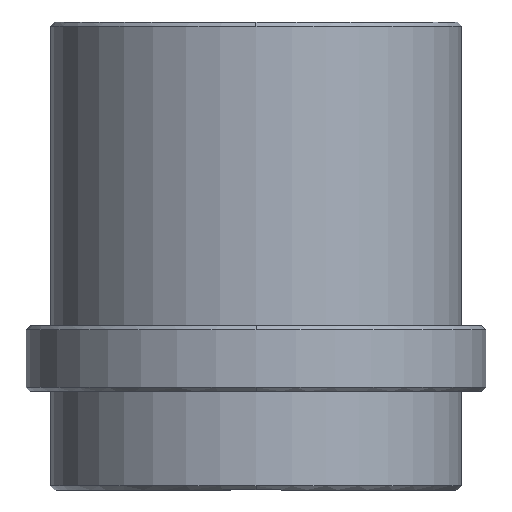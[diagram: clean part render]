
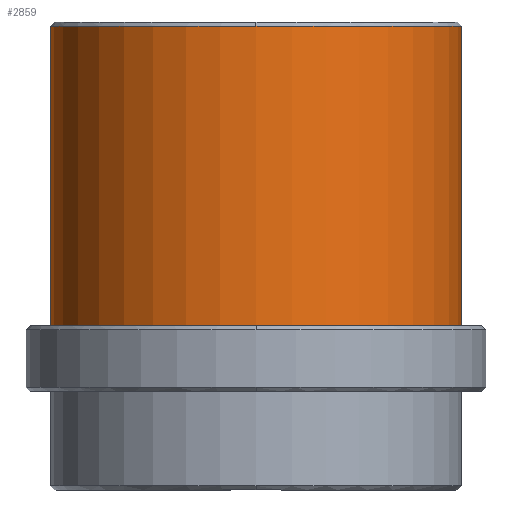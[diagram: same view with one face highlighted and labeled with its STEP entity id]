
A CAD part, front view. The second image highlights one B-rep face of the part: STEP entity #2859.
In plain terms, the highlighted cylindrical face has radius 25 mm (diameter 50 mm), a partial arc.
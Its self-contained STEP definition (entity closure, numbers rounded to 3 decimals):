
#2656=CARTESIAN_POINT('Vertex',(25.,0.,44.5)) ;
#2680=CARTESIAN_POINT('Vertex',(-25.,0.,44.5)) ;
#2704=CARTESIAN_POINT('Vertex',(0.,-25.,44.5)) ;
#2707=CARTESIAN_POINT('Axis2P3D Location',(0.,0.,44.5)) ;
#2724=CARTESIAN_POINT('Axis2P3D Location',(0.,0.,44.5)) ;
#2803=CARTESIAN_POINT('Line Origine',(25.,0.,-14.85)) ;
#2807=CARTESIAN_POINT('Vertex',(25.,0.,8.)) ;
#2826=CARTESIAN_POINT('Vertex',(-25.,0.,8.)) ;
#2829=CARTESIAN_POINT('Line Origine',(-25.,0.,-14.85)) ;
#2842=CARTESIAN_POINT('Axis2P3D Location',(0.,0.,-14.85)) ;
#2847=CARTESIAN_POINT('Axis2P3D Location',(0.,0.,8.)) ;
#2708=DIRECTION('Axis2P3D Direction',(0.,0.,-1.)) ;
#2725=DIRECTION('Axis2P3D Direction',(0.,0.,-1.)) ;
#2804=DIRECTION('Vector Direction',(0.,0.,1.)) ;
#2830=DIRECTION('Vector Direction',(0.,0.,1.)) ;
#2843=DIRECTION('Axis2P3D Direction',(0.,0.,1.)) ;
#2844=DIRECTION('Axis2P3D XDirection',(-1.,0.,0.)) ;
#2848=DIRECTION('Axis2P3D Direction',(0.,0.,1.)) ;
#2709=AXIS2_PLACEMENT_3D('Circle Axis2P3D',#2707,#2708,$) ;
#2726=AXIS2_PLACEMENT_3D('Circle Axis2P3D',#2724,#2725,$) ;
#2845=AXIS2_PLACEMENT_3D('Cylinder Axis2P3D',#2842,#2843,#2844) ;
#2849=AXIS2_PLACEMENT_3D('Circle Axis2P3D',#2847,#2848,$) ;
#2853=ORIENTED_EDGE('',*,*,#2833,.T.) ;
#2854=ORIENTED_EDGE('',*,*,#2851,.F.) ;
#2855=ORIENTED_EDGE('',*,*,#2809,.F.) ;
#2856=ORIENTED_EDGE('',*,*,#2728,.T.) ;
#2857=ORIENTED_EDGE('',*,*,#2711,.T.) ;
#2805=VECTOR('Line Direction',#2804,1.) ;
#2831=VECTOR('Line Direction',#2830,1.) ;
#2859=ADVANCED_FACE('MANIFOLD_SOLID_BREP #2384',(#2858),#2846,.T.) ;
#2710=CIRCLE('generated circle',#2709,25.) ;
#2727=CIRCLE('generated circle',#2726,25.) ;
#2850=CIRCLE('generated circle',#2849,25.) ;
#2846=CYLINDRICAL_SURFACE('generated cylinder',#2845,25.) ;
#2711=EDGE_CURVE('',#2705,#2681,#2710,.T.) ;
#2728=EDGE_CURVE('',#2657,#2705,#2727,.T.) ;
#2809=EDGE_CURVE('',#2657,#2808,#2806,.F.) ;
#2833=EDGE_CURVE('',#2681,#2827,#2832,.F.) ;
#2851=EDGE_CURVE('',#2808,#2827,#2850,.F.) ;
#2852=EDGE_LOOP('',(#2853,#2854,#2855,#2856,#2857)) ;
#2858=FACE_OUTER_BOUND('',#2852,.T.) ;
#2806=LINE('Line',#2803,#2805) ;
#2832=LINE('Line',#2829,#2831) ;
#2657=VERTEX_POINT('',#2656) ;
#2681=VERTEX_POINT('',#2680) ;
#2705=VERTEX_POINT('',#2704) ;
#2808=VERTEX_POINT('',#2807) ;
#2827=VERTEX_POINT('',#2826) ;
